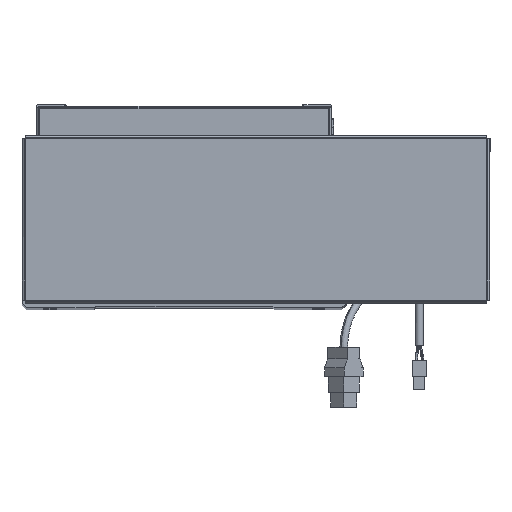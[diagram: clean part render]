
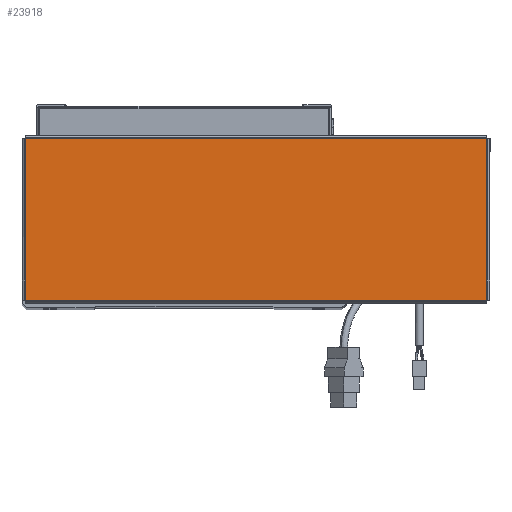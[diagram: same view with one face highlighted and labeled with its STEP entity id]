
A CAD part, top view. The second image highlights one B-rep face of the part: STEP entity #23918.
In plain terms, the highlighted planar face has unit normal (0, 0, 1).
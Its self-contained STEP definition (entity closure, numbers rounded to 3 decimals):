
#2177 = LINE ( 'NONE', #59895, #61432 ) ;
#5439 = DIRECTION ( 'NONE',  ( 0., -1., 0. ) ) ;
#5547 = VERTEX_POINT ( 'NONE', #14576 ) ;
#7051 = LINE ( 'NONE', #35729, #32021 ) ;
#12167 = PLANE ( 'NONE',  #19062 ) ;
#13662 = CARTESIAN_POINT ( 'NONE',  ( 156.513, 54.763, 0. ) ) ;
#14576 = CARTESIAN_POINT ( 'NONE',  ( -156.513, -54.763, 0. ) ) ;
#14961 = ORIENTED_EDGE ( 'NONE', *, *, #40172, .T. ) ;
#15831 = CARTESIAN_POINT ( 'NONE',  ( 156.513, -54.793, 0. ) ) ;
#15942 = ORIENTED_EDGE ( 'NONE', *, *, #46258, .T. ) ;
#17885 = EDGE_CURVE ( 'NONE', #5547, #48635, #2177, .T. ) ;
#18987 = ORIENTED_EDGE ( 'NONE', *, *, #63184, .T. ) ;
#19062 = AXIS2_PLACEMENT_3D ( 'NONE', #46450, #21421, #31401 ) ;
#19255 = ORIENTED_EDGE ( 'NONE', *, *, #17885, .T. ) ;
#19802 = CARTESIAN_POINT ( 'NONE',  ( 156.513, -54.763, 0. ) ) ;
#21204 = VECTOR ( 'NONE', #51145, 1000. ) ;
#21421 = DIRECTION ( 'NONE',  ( 0., 0., 1. ) ) ;
#23918 = ADVANCED_FACE ( 'NONE', ( #59275 ), #12167, .T. ) ;
#28102 = VECTOR ( 'NONE', #5439, 1000. ) ;
#28208 = VERTEX_POINT ( 'NONE', #47648 ) ;
#29669 = CARTESIAN_POINT ( 'NONE',  ( -156.513, 54.793, 0. ) ) ;
#31401 = DIRECTION ( 'NONE',  ( 1., 0., 0. ) ) ;
#32021 = VECTOR ( 'NONE', #45753, 1000. ) ;
#32833 = LINE ( 'NONE', #15831, #21204 ) ;
#35729 = CARTESIAN_POINT ( 'NONE',  ( 156.543, 54.763, 0. ) ) ;
#38636 = EDGE_LOOP ( 'NONE', ( #19255, #14961, #18987, #15942 ) ) ;
#39703 = DIRECTION ( 'NONE',  ( 1., 0., 0. ) ) ;
#40172 = EDGE_CURVE ( 'NONE', #48635, #44269, #32833, .T. ) ;
#44269 = VERTEX_POINT ( 'NONE', #13662 ) ;
#45753 = DIRECTION ( 'NONE',  ( -1., 0., 0. ) ) ;
#46258 = EDGE_CURVE ( 'NONE', #28208, #5547, #60032, .T. ) ;
#46450 = CARTESIAN_POINT ( 'NONE',  ( 0., 0., 0. ) ) ;
#47648 = CARTESIAN_POINT ( 'NONE',  ( -156.513, 54.763, 0. ) ) ;
#48635 = VERTEX_POINT ( 'NONE', #19802 ) ;
#51145 = DIRECTION ( 'NONE',  ( 0., 1., 0. ) ) ;
#59275 = FACE_OUTER_BOUND ( 'NONE', #38636, .T. ) ;
#59895 = CARTESIAN_POINT ( 'NONE',  ( -156.543, -54.763, 0. ) ) ;
#60032 = LINE ( 'NONE', #29669, #28102 ) ;
#61432 = VECTOR ( 'NONE', #39703, 1000. ) ;
#63184 = EDGE_CURVE ( 'NONE', #44269, #28208, #7051, .T. ) ;
